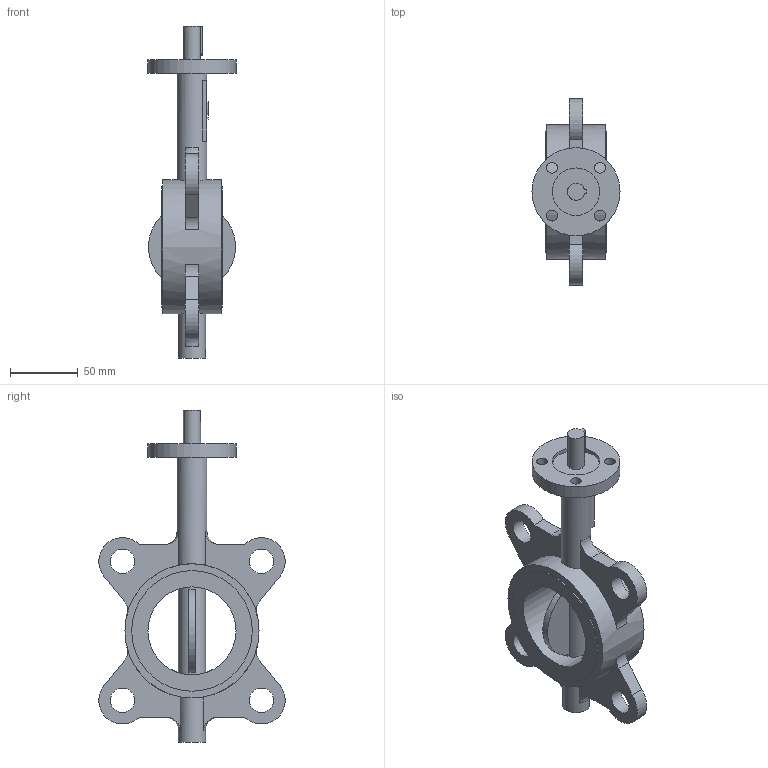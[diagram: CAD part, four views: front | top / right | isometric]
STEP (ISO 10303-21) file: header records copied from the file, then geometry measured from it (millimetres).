
FILE_DESCRIPTION(('STEP AP203'), '1');
FILE_NAME('青蜮铕 017W.Y_DN65_PN10_PN16', '', ('UNSPECIFIED'), ('UNSPECIFIED'), 'ASCON STEP Converter 1.6', 'ASCON Math Kernel', '');
FILE_SCHEMA(('CONFIG_CONTROL_DESIGN'));
Length unit declared in the file: millimetre
Bounding box: 65 x 137.4 x 245 mm (x, y, z)
Volume: 356266.7 mm3; surface area: 73186.5 mm2
Topology: 1 solids, 1 shells, 89 faces, 220 edges, 146 vertices
Faces by surface type: plane 48, cylinder 37, torus 4
Full cylindrical faces by diameter (mm): 8 x4, 12.6 x1, 18 x4, 20 x2, 22 x1, 35 x1, 65 x2, 89 x2, 99 x1
Entity records: 4416 total; most frequent: CARTESIAN_POINT 1524, DIRECTION 452, ORIENTED_EDGE 404, EDGE_CURVE 202, AXIS2_PLACEMENT_3D 180, VERTEX_POINT 146, EDGE_LOOP 140, FACE_BOUND 107
